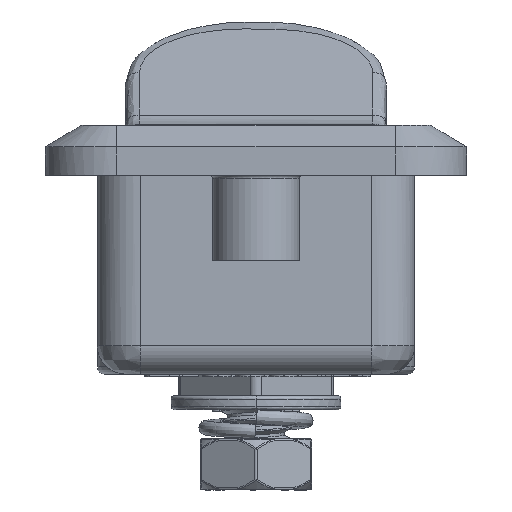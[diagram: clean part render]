
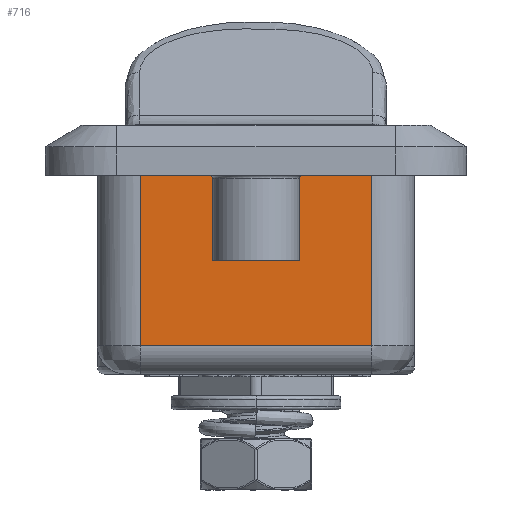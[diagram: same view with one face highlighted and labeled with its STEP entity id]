
A CAD part, front view. The second image highlights one B-rep face of the part: STEP entity #716.
In plain terms, the highlighted planar face has unit normal (0, -1, 0).
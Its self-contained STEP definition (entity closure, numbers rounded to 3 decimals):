
#716=ADVANCED_FACE('',(#1712),#15459,.T.);
#1712=FACE_OUTER_BOUND('',#2749,.T.);
#2749=EDGE_LOOP('',(#5003,#5004,#5005,#5006));
#5003=ORIENTED_EDGE('',*,*,#9363,.F.);
#5004=ORIENTED_EDGE('',*,*,#9364,.F.);
#5005=ORIENTED_EDGE('',*,*,#9317,.T.);
#5006=ORIENTED_EDGE('',*,*,#9362,.F.);
#9317=EDGE_CURVE('',#14431,#14430,#11605,.T.);
#9362=EDGE_CURVE('',#14457,#14430,#11638,.T.);
#9363=EDGE_CURVE('',#14458,#14457,#11639,.T.);
#9364=EDGE_CURVE('',#14431,#14458,#11640,.T.);
#11605=B_SPLINE_CURVE_WITH_KNOTS('',1,(#38995,#38996),.UNSPECIFIED.,.F.,
 .F.,(2,2),(-16.2,0.),.UNSPECIFIED.);
#11638=B_SPLINE_CURVE_WITH_KNOTS('',1,(#39097,#39098),.UNSPECIFIED.,.F.,
 .F.,(2,2),(-11.9,0.),.UNSPECIFIED.);
#11639=B_SPLINE_CURVE_WITH_KNOTS('',1,(#39099,#39100),.UNSPECIFIED.,.F.,
 .F.,(2,2),(-16.2,0.),.UNSPECIFIED.);
#11640=B_SPLINE_CURVE_WITH_KNOTS('',1,(#39101,#39102),.UNSPECIFIED.,.F.,
 .F.,(2,2),(-11.9,0.),.UNSPECIFIED.);
#14430=VERTEX_POINT('',#35218);
#14431=VERTEX_POINT('',#35219);
#14457=VERTEX_POINT('',#35245);
#14458=VERTEX_POINT('',#35246);
#15459=PLANE('',#16246);
#16246=AXIS2_PLACEMENT_3D('',#24395,#16895,$);
#16895=DIRECTION('',(0.,-1.,0.));
#24395=CARTESIAN_POINT('',(-9.72,-45.175,-13.09));
#35218=CARTESIAN_POINT('',(-8.1,-45.175,0.));
#35219=CARTESIAN_POINT('',(8.1,-45.175,0.));
#35245=CARTESIAN_POINT('',(-8.1,-45.175,-11.9));
#35246=CARTESIAN_POINT('',(8.1,-45.175,-11.9));
#38995=CARTESIAN_POINT('',(8.1,-45.175,0.));
#38996=CARTESIAN_POINT('',(-8.1,-45.175,0.));
#39097=CARTESIAN_POINT('',(-8.1,-45.175,-11.9));
#39098=CARTESIAN_POINT('',(-8.1,-45.175,0.));
#39099=CARTESIAN_POINT('',(8.1,-45.175,-11.9));
#39100=CARTESIAN_POINT('',(-8.1,-45.175,-11.9));
#39101=CARTESIAN_POINT('',(8.1,-45.175,0.));
#39102=CARTESIAN_POINT('',(8.1,-45.175,-11.9));
